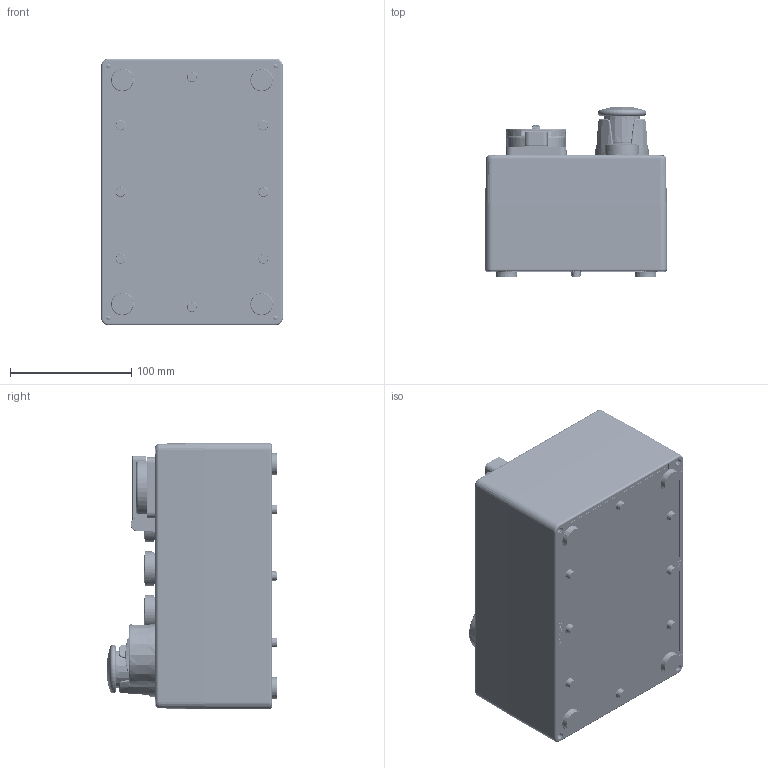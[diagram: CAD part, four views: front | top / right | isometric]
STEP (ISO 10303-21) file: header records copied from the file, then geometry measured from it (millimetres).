
FILE_DESCRIPTION((''),'2;1');
FILE_NAME('BOITE7TROUS_ASM','2016-12-05T',('ebbw695'),('Schneider-Electric'),'PRO/ENGINEER BY PARAMETRIC TECHNOLOGY CORPORATION, 2015440','PRO/ENGINEER BY PARAMETRIC TECHNOLOGY CORPORATION, 2015440','');
FILE_SCHEMA(('CONFIG_CONTROL_DESIGN'));
Products named in the file (80): SCATOLA_150X220_60-236-102; AAV9172102; MCI0103C4; MAI1093A1; VIS_BOITE_SCHYLLER; 170658001AF6; CAPSULE_ISOLATION; B7TNONEQUIPC_ASM; 170654101AF6; 170659701AF6; BILLE4; SE-POUSSOIR-BPAUISM4_ASM; 170653901AF6; 170654301AF6; 170654201AF6; 170659801AF6; 170659901AF6; 170654401AF6; SE-TETE-BPAUISM4_ASM; 170654001AF6; 170659601AF6; 170659501AF6; 155950303AF6; AAV6762703_ASM; ECROU_BOUTON; 152816601AF6; 152816701AF6; W815281650111_ASM; 152803200AF8; 152803301AF6; 152804300AF6; W015280370111; W015280380111; VIS-LONGUE_MIG02; 130396001AF6; ROND-VOS-COMP_MIG02; VIS-LONGUE_ASM; 152800301AF7_ASM; W415280340111; POUSSOIR-NO-ASSEM_ASM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
Assembly tree (140 placements, depth 5):
  BOITE7TROUS_ASM
    B7TNONEQUIPC_ASM
      SCATOLA_150X220_60-236-102
      AAV9172102
      MCI0103C4
      MAI1093A1  x2
      VIS_BOITE_SCHYLLER  x4
      170658001AF6
      CAPSULE_ISOLATION  x4
    AAV6762703_ASM
      SE-POUSSOIR-BPAUISM4_ASM
        170654101AF6
        170659701AF6  x2
        BILLE4  x2
      SE-TETE-BPAUISM4_ASM
        170653901AF6
        170654301AF6
        170654201AF6
        170659801AF6
        170659901AF6
        170654401AF6  x2
      170654001AF6
      170659601AF6
      170659501AF6  x2
      155950303AF6
    ECROU_BOUTON  x6
    P3CONTACTS_ASM  x2
      W815281650111_ASM
        152816601AF6
        152816701AF6
      W815280300111_ASM
        152803200AF8
        152803301AF6
        152804300AF6
        W015280370111
        W015280380111
        VIS-LONGUE_ASM
          VIS-LONGUE_MIG02
          130396001AF6
          ROND-VOS-COMP_MIG02
        152800301AF7_ASM
          VIS-LONGUE_MIG02
          130396001AF6
          ROND-VOS-COMP_MIG02
        POUSSOIR-NO-ASSEM_ASM
          W415280340111
        W11528042REPO
        W115280440111
        W11528041-NO
        W015280360111_ASM
          W01528036_PONT
          W01528036_PASTILLE  x2
    W815595010211_ASM  x4
      155950501AF6
      155950303AF6
      155950801AF6
      W115595040111
      W915595060121
      155950701AF6
      155951301AF6
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Bounding box: 150 x 140.55 x 220 mm (x, y, z)
Volume: 719087.3 mm3; surface area: 642976.5 mm2
Topology: 375 solids, 408 shells, 39493 faces, 107530 edges, 69315 vertices
Faces by surface type: plane 23792, cylinder 9695, cone 2350, torus 1908, bspline 1136, sphere 588, extrusion 16, revolution 8
Entity records: 334746 total; most frequent: CARTESIAN_POINT 112591, ORIENTED_EDGE 47842, DIRECTION 43981, EDGE_CURVE 23929, VERTEX_POINT 15319, AXIS2_PLACEMENT_3D 14701, VECTOR 14577, LINE 14569
